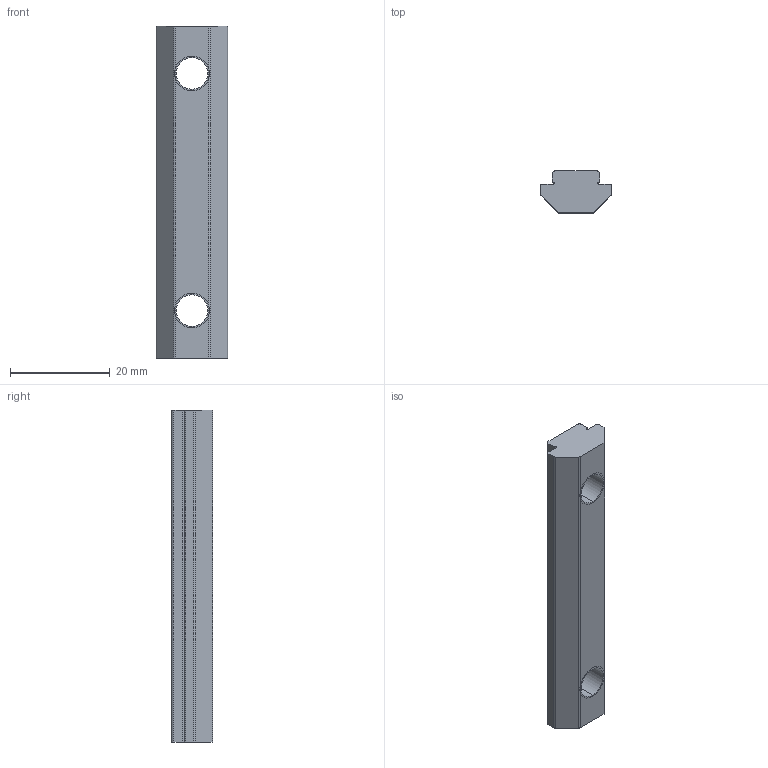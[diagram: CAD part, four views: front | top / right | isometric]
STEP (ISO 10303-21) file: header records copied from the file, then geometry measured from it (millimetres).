
FILE_DESCRIPTION((''),'2;1');
FILE_NAME('300150','2016-06-08T',('adam.dellomodarme'),(''),'PRO/ENGINEER BY PARAMETRIC TECHNOLOGY CORPORATION, 2012420','PRO/ENGINEER BY PARAMETRIC TECHNOLOGY CORPORATION, 2012420','');
FILE_SCHEMA(('CONFIG_CONTROL_DESIGN'));
Length unit declared in the file: inch
Products named in the file (1): 300150
Bounding box: 14.3 x 8.33 x 66.67 mm (x, y, z)
Volume: 5674.5 mm3; surface area: 3525.9 mm2
Topology: 1 solids, 3 shells, 32 faces, 90 edges, 60 vertices
Faces by surface type: cylinder 18, plane 14
Entity records: 1101 total; most frequent: DIRECTION 192, CARTESIAN_POINT 183, ORIENTED_EDGE 172, EDGE_CURVE 90, AXIS2_PLACEMENT_3D 69, VERTEX_POINT 60, VECTOR 54, LINE 54
